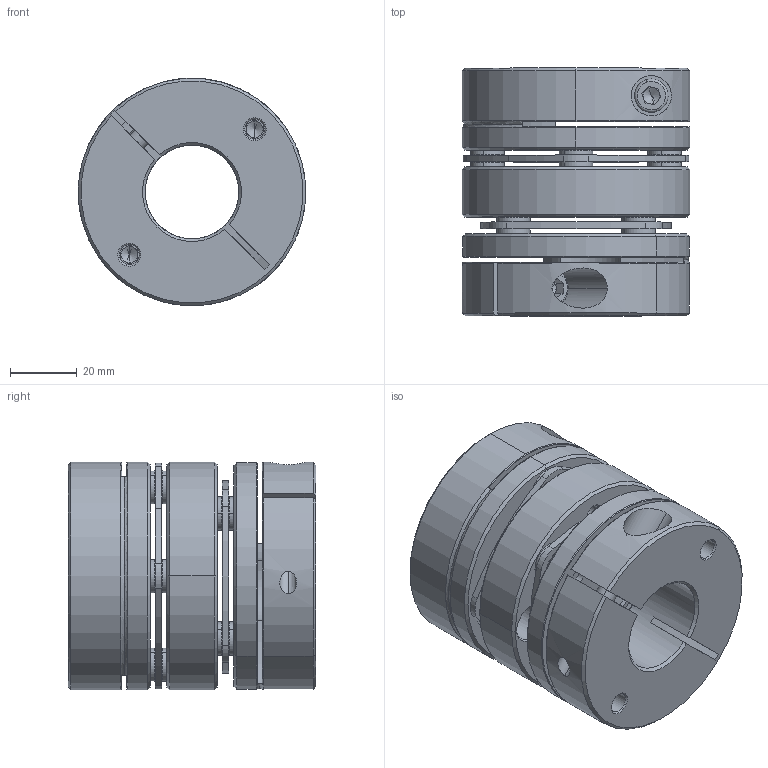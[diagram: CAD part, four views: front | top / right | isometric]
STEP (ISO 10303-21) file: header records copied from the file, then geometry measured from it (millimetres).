
FILE_DESCRIPTION (( 'STEP AP203' ), '1' );
FILE_NAME ('LD2-D68-28-28.STEP', '2021-10-26T08:46:08', ( '' ), ( '' ), 'SwSTEP 2.0', 'SolidWorks 2018', '' );
FILE_SCHEMA (( 'CONFIG_CONTROL_DESIGN' ));
Length unit declared in the file: millimetre
Products named in the file (2): 錨璃102^LD2-D68; LD2-D68-28-28
Assembly tree (1 placements, depth 2):
  LD2-D68-28-28
    錨璃102^LD2-D68
Bounding box: 68 x 74 x 68 mm (x, y, z)
Volume: 176017 mm3; surface area: 63367.6 mm2
Topology: 1 solids, 27 shells, 732 faces, 1696 edges, 1032 vertices
Faces by surface type: cylinder 256, cone 226, plane 220, torus 30
Entity records: 21398 total; most frequent: DIRECTION 3974, CARTESIAN_POINT 3912, ORIENTED_EDGE 3344, EDGE_CURVE 1672, AXIS2_PLACEMENT_3D 1614, VERTEX_POINT 1032, CIRCLE 878, EDGE_LOOP 868
